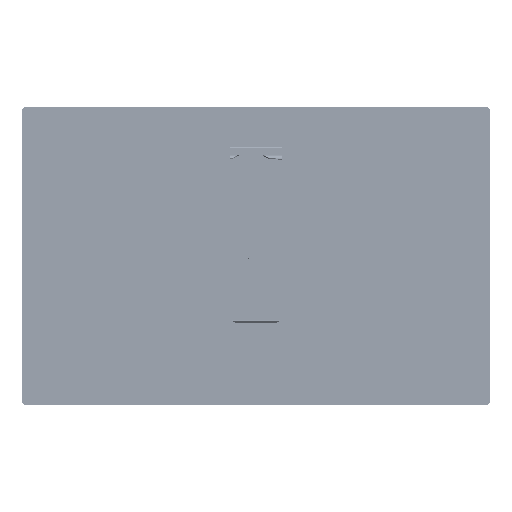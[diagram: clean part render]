
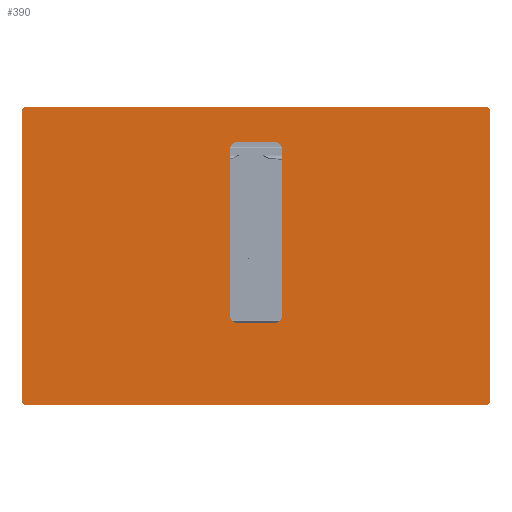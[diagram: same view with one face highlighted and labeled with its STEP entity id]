
A CAD part, top view. The second image highlights one B-rep face of the part: STEP entity #390.
In plain terms, the highlighted planar face has unit normal (0, 0, 1).
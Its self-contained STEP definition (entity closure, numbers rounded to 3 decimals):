
#59=CARTESIAN_POINT('Vertex',(-392.,255.,0.)) ;
#73=CARTESIAN_POINT('Vertex',(-400.,247.,0.)) ;
#76=CARTESIAN_POINT('Axis2P3D Location',(-392.,247.,0.)) ;
#107=CARTESIAN_POINT('Vertex',(392.,255.,0.)) ;
#115=CARTESIAN_POINT('Line Origine',(0.,255.,0.)) ;
#260=CARTESIAN_POINT('Vertex',(-400.,-247.,0.)) ;
#263=CARTESIAN_POINT('Line Origine',(-400.,0.,0.)) ;
#276=CARTESIAN_POINT('Axis2P3D Location',(0.,0.,0.)) ;
#281=CARTESIAN_POINT('Axis2P3D Location',(-392.,-247.,0.)) ;
#285=CARTESIAN_POINT('Vertex',(-392.,-255.,0.)) ;
#288=CARTESIAN_POINT('Line Origine',(0.,-255.,0.)) ;
#292=CARTESIAN_POINT('Vertex',(392.,-255.,0.)) ;
#295=CARTESIAN_POINT('Axis2P3D Location',(392.,-247.,0.)) ;
#299=CARTESIAN_POINT('Vertex',(400.,-247.,0.)) ;
#302=CARTESIAN_POINT('Line Origine',(400.,0.,0.)) ;
#306=CARTESIAN_POINT('Vertex',(400.,247.,0.)) ;
#309=CARTESIAN_POINT('Axis2P3D Location',(392.,247.,0.)) ;
#324=CARTESIAN_POINT('Line Origine',(0.,195.,0.)) ;
#328=CARTESIAN_POINT('Vertex',(30.,195.,0.)) ;
#330=CARTESIAN_POINT('Vertex',(-30.,195.,0.)) ;
#333=CARTESIAN_POINT('Axis2P3D Location',(30.,180.,0.)) ;
#337=CARTESIAN_POINT('Vertex',(45.,180.,0.)) ;
#340=CARTESIAN_POINT('Line Origine',(45.,40.,0.)) ;
#344=CARTESIAN_POINT('Vertex',(45.,-100.,0.)) ;
#347=CARTESIAN_POINT('Axis2P3D Location',(30.,-100.,0.)) ;
#351=CARTESIAN_POINT('Vertex',(30.,-115.,0.)) ;
#354=CARTESIAN_POINT('Line Origine',(0.,-115.,0.)) ;
#358=CARTESIAN_POINT('Vertex',(-30.,-115.,0.)) ;
#361=CARTESIAN_POINT('Axis2P3D Location',(-30.,-100.,0.)) ;
#365=CARTESIAN_POINT('Vertex',(-45.,-100.,0.)) ;
#368=CARTESIAN_POINT('Line Origine',(-45.,40.,0.)) ;
#372=CARTESIAN_POINT('Vertex',(-45.,180.,0.)) ;
#375=CARTESIAN_POINT('Axis2P3D Location',(-30.,180.,0.)) ;
#117=VECTOR('Line Direction',#116,1.) ;
#265=VECTOR('Line Direction',#264,1.) ;
#290=VECTOR('Line Direction',#289,1.) ;
#304=VECTOR('Line Direction',#303,1.) ;
#326=VECTOR('Line Direction',#325,1.) ;
#342=VECTOR('Line Direction',#341,1.) ;
#356=VECTOR('Line Direction',#355,1.) ;
#370=VECTOR('Line Direction',#369,1.) ;
#77=DIRECTION('Axis2P3D Direction',(0.,0.,1.)) ;
#116=DIRECTION('Vector Direction',(1.,0.,0.)) ;
#264=DIRECTION('Vector Direction',(0.,-1.,0.)) ;
#277=DIRECTION('Axis2P3D Direction',(0.,0.,1.)) ;
#278=DIRECTION('Axis2P3D XDirection',(1.,0.,0.)) ;
#282=DIRECTION('Axis2P3D Direction',(0.,0.,1.)) ;
#289=DIRECTION('Vector Direction',(-1.,0.,0.)) ;
#296=DIRECTION('Axis2P3D Direction',(0.,0.,1.)) ;
#303=DIRECTION('Vector Direction',(0.,1.,0.)) ;
#310=DIRECTION('Axis2P3D Direction',(0.,0.,1.)) ;
#325=DIRECTION('Vector Direction',(1.,0.,0.)) ;
#334=DIRECTION('Axis2P3D Direction',(0.,0.,1.)) ;
#341=DIRECTION('Vector Direction',(0.,1.,0.)) ;
#348=DIRECTION('Axis2P3D Direction',(0.,0.,1.)) ;
#355=DIRECTION('Vector Direction',(-1.,0.,0.)) ;
#362=DIRECTION('Axis2P3D Direction',(0.,0.,1.)) ;
#369=DIRECTION('Vector Direction',(0.,-1.,0.)) ;
#376=DIRECTION('Axis2P3D Direction',(0.,0.,1.)) ;
#78=AXIS2_PLACEMENT_3D('Circle Axis2P3D',#76,#77,$) ;
#279=AXIS2_PLACEMENT_3D('Plane Axis2P3D',#276,#277,#278) ;
#283=AXIS2_PLACEMENT_3D('Circle Axis2P3D',#281,#282,$) ;
#297=AXIS2_PLACEMENT_3D('Circle Axis2P3D',#295,#296,$) ;
#311=AXIS2_PLACEMENT_3D('Circle Axis2P3D',#309,#310,$) ;
#335=AXIS2_PLACEMENT_3D('Circle Axis2P3D',#333,#334,$) ;
#349=AXIS2_PLACEMENT_3D('Circle Axis2P3D',#347,#348,$) ;
#363=AXIS2_PLACEMENT_3D('Circle Axis2P3D',#361,#362,$) ;
#377=AXIS2_PLACEMENT_3D('Circle Axis2P3D',#375,#376,$) ;
#118=LINE('Line',#115,#117) ;
#266=LINE('Line',#263,#265) ;
#291=LINE('Line',#288,#290) ;
#305=LINE('Line',#302,#304) ;
#327=LINE('Line',#324,#326) ;
#343=LINE('Line',#340,#342) ;
#357=LINE('Line',#354,#356) ;
#371=LINE('Line',#368,#370) ;
#79=CIRCLE('generated circle',#78,8.) ;
#284=CIRCLE('generated circle',#283,8.) ;
#298=CIRCLE('generated circle',#297,8.) ;
#312=CIRCLE('generated circle',#311,8.) ;
#336=CIRCLE('generated circle',#335,15.) ;
#350=CIRCLE('generated circle',#349,15.) ;
#364=CIRCLE('generated circle',#363,15.) ;
#378=CIRCLE('generated circle',#377,15.) ;
#280=PLANE('',#279) ;
#389=FACE_BOUND('',#380,.T.) ;
#80=EDGE_CURVE('',#60,#74,#79,.T.) ;
#119=EDGE_CURVE('',#108,#60,#118,.F.) ;
#267=EDGE_CURVE('',#74,#261,#266,.T.) ;
#287=EDGE_CURVE('',#261,#286,#284,.T.) ;
#294=EDGE_CURVE('',#286,#293,#291,.F.) ;
#301=EDGE_CURVE('',#293,#300,#298,.T.) ;
#308=EDGE_CURVE('',#300,#307,#305,.T.) ;
#313=EDGE_CURVE('',#307,#108,#312,.T.) ;
#332=EDGE_CURVE('',#329,#331,#327,.F.) ;
#339=EDGE_CURVE('',#338,#329,#336,.T.) ;
#346=EDGE_CURVE('',#345,#338,#343,.T.) ;
#353=EDGE_CURVE('',#352,#345,#350,.T.) ;
#360=EDGE_CURVE('',#359,#352,#357,.F.) ;
#367=EDGE_CURVE('',#366,#359,#364,.T.) ;
#374=EDGE_CURVE('',#373,#366,#371,.T.) ;
#379=EDGE_CURVE('',#331,#373,#378,.T.) ;
#314=EDGE_LOOP('',(#315,#316,#317,#318,#319,#320,#321,#322)) ;
#380=EDGE_LOOP('',(#381,#382,#383,#384,#385,#386,#387,#388)) ;
#315=ORIENTED_EDGE('',*,*,#80,.T.) ;
#316=ORIENTED_EDGE('',*,*,#267,.T.) ;
#317=ORIENTED_EDGE('',*,*,#287,.T.) ;
#318=ORIENTED_EDGE('',*,*,#294,.T.) ;
#319=ORIENTED_EDGE('',*,*,#301,.T.) ;
#320=ORIENTED_EDGE('',*,*,#308,.T.) ;
#321=ORIENTED_EDGE('',*,*,#313,.T.) ;
#322=ORIENTED_EDGE('',*,*,#119,.T.) ;
#381=ORIENTED_EDGE('',*,*,#332,.F.) ;
#382=ORIENTED_EDGE('',*,*,#339,.F.) ;
#383=ORIENTED_EDGE('',*,*,#346,.F.) ;
#384=ORIENTED_EDGE('',*,*,#353,.F.) ;
#385=ORIENTED_EDGE('',*,*,#360,.F.) ;
#386=ORIENTED_EDGE('',*,*,#367,.F.) ;
#387=ORIENTED_EDGE('',*,*,#374,.F.) ;
#388=ORIENTED_EDGE('',*,*,#379,.F.) ;
#60=VERTEX_POINT('',#59) ;
#74=VERTEX_POINT('',#73) ;
#108=VERTEX_POINT('',#107) ;
#261=VERTEX_POINT('',#260) ;
#286=VERTEX_POINT('',#285) ;
#293=VERTEX_POINT('',#292) ;
#300=VERTEX_POINT('',#299) ;
#307=VERTEX_POINT('',#306) ;
#329=VERTEX_POINT('',#328) ;
#331=VERTEX_POINT('',#330) ;
#338=VERTEX_POINT('',#337) ;
#345=VERTEX_POINT('',#344) ;
#352=VERTEX_POINT('',#351) ;
#359=VERTEX_POINT('',#358) ;
#366=VERTEX_POINT('',#365) ;
#373=VERTEX_POINT('',#372) ;
#390=ADVANCED_FACE('M0421545 glass ceramic plate',(#323,#389),#280,.T.) ;
#323=FACE_OUTER_BOUND('',#314,.T.) ;
